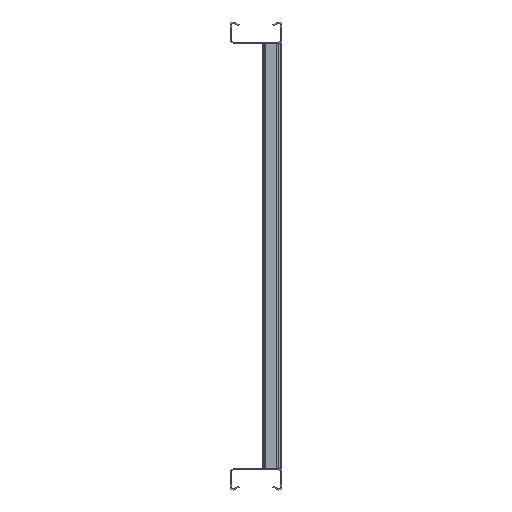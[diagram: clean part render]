
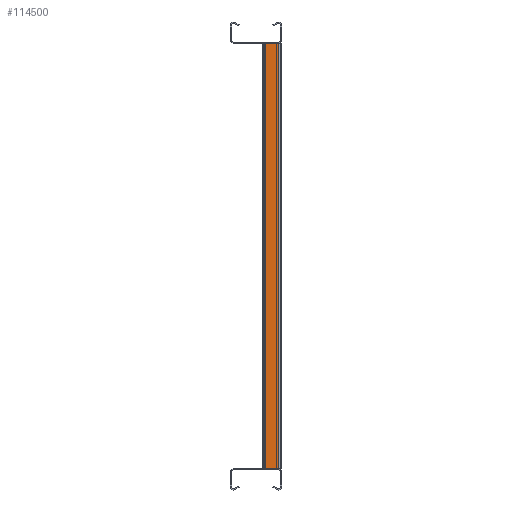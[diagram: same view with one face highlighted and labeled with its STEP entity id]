
A CAD part, left-side view. The second image highlights one B-rep face of the part: STEP entity #114500.
In plain terms, the highlighted planar face has unit normal (-1, 0, 0).
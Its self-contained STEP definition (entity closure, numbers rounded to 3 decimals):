
#5387=LINE('',#169580,#16547);
#5388=LINE('',#169582,#16548);
#5389=LINE('',#169584,#16549);
#5390=LINE('',#169585,#16550);
#16547=VECTOR('',#135806,10.);
#16548=VECTOR('',#135807,10.);
#16549=VECTOR('',#135808,10.);
#16550=VECTOR('',#135809,10.);
#25527=PLANE('',#120442);
#30292=FACE_OUTER_BOUND('',#36488,.T.);
#36488=EDGE_LOOP('',(#82909,#82910,#82911,#82912));
#48215=VERTEX_POINT('',#169575);
#48216=VERTEX_POINT('',#169579);
#48217=VERTEX_POINT('',#169581);
#48218=VERTEX_POINT('',#169583);
#61134=EDGE_CURVE('',#48216,#48215,#5387,.T.);
#61135=EDGE_CURVE('',#48217,#48216,#5388,.T.);
#61136=EDGE_CURVE('',#48217,#48218,#5389,.T.);
#61137=EDGE_CURVE('',#48215,#48218,#5390,.T.);
#82909=ORIENTED_EDGE('',*,*,#61134,.F.);
#82910=ORIENTED_EDGE('',*,*,#61135,.F.);
#82911=ORIENTED_EDGE('',*,*,#61136,.T.);
#82912=ORIENTED_EDGE('',*,*,#61137,.F.);
#114500=ADVANCED_FACE('',(#30292),#25527,.T.);
#120442=AXIS2_PLACEMENT_3D('',#169578,#135804,#135805);
#135804=DIRECTION('center_axis',(-1.,0.,0.));
#135805=DIRECTION('ref_axis',(0.,0.,
-1.));
#135806=DIRECTION('',(0.,0.,1.));
#135807=DIRECTION('',(0.,1.,0.));
#135808=DIRECTION('',(0.,0.,1.));
#135809=DIRECTION('',(0.,-1.,0.));
#169575=CARTESIAN_POINT('',(-2894.75,-11.,250.));
#169578=CARTESIAN_POINT('Origin',(-2894.75,9.143,0.));
#169579=CARTESIAN_POINT('',(-2894.75,-11.,-250.));
#169580=CARTESIAN_POINT('',(-2894.75,-11.,0.));
#169581=CARTESIAN_POINT('',(-2894.75,-27.,-250.));
#169582=CARTESIAN_POINT('',(-2894.75,56.822,-250.));
#169583=CARTESIAN_POINT('',(-2894.75,-27.,250.));
#169584=CARTESIAN_POINT('',(-2894.75,-27.,0.));
#169585=CARTESIAN_POINT('',(-2894.75,-41.536,250.));
